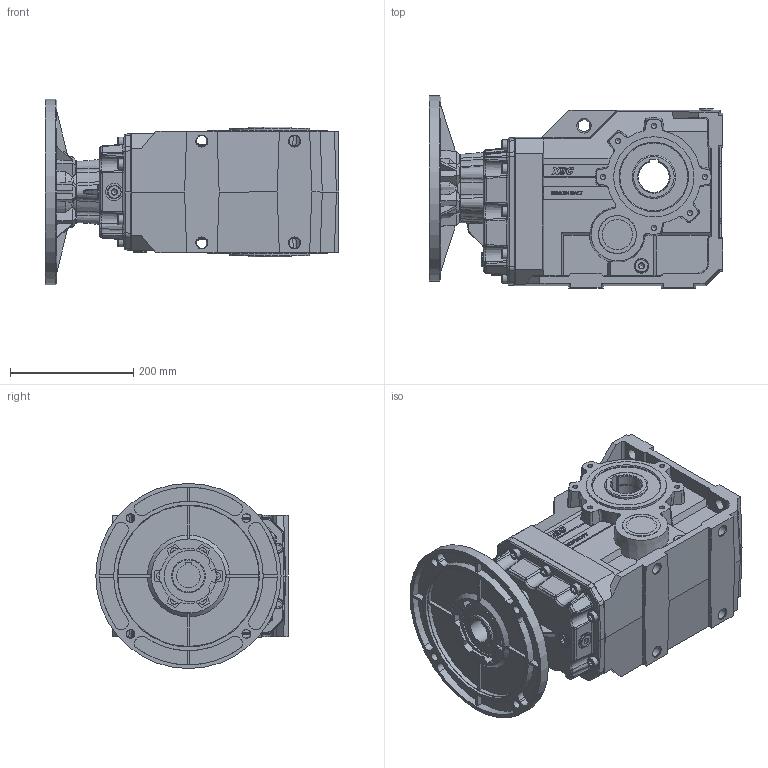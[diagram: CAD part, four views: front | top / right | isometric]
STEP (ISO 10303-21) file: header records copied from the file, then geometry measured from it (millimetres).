
FILE_DESCRIPTION( ( 'Unknown' ), '1' );
FILE_NAME( 'E:/services/configuratordownloads/customers/HYDROMEC/X/download/7D359888F9DA7147EA748F81DC616E39/STEP/7D359888F9DA7147EA748F81DC616E39.3d.stp', 'Unknown', ( 'Unknown' ), ( 'Unknown' ), 'PSStep 10.1', 'Unknown', ' ' );
FILE_SCHEMA( ( 'AUTOMOTIVE_DESIGN { 1 0 10303 214 1 1 1 1 }' ) );
Length unit declared in the file: millimetre
Products named in the file (1): X9C8800
Bounding box: 476 x 311.5 x 300 mm (x, y, z)
Volume: 17242273.8 mm3; surface area: 988259.7 mm2
Topology: 1 solids, 39 shells, 1972 faces, 4938 edges, 3156 vertices
Faces by surface type: plane 1099, cylinder 378, bspline 217, cone 215, torus 63
Full cylindrical faces by diameter (mm): 4.917 x8, 5.6 x8, 6 x8, 7 x8, 8.376 x22, 8.5 x7, 10 x10, 11 x10, 12 x8, 13 x6, 14 x4, 14.3 x7, 14.95 x11, 16 x10, 17 x7, 17.5 x8, 22 x14, 24 x5, 28 x2, 49 x1, 55 x1, 58.8 x1, 59 x1, 61 x1, 61.246 x1, 61.7 x1, 62 x2, 63 x1, 65 x1, 68 x1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
Entity records: 92625 total; most frequent: CARTESIAN_POINT 33095, ORIENTED_EDGE 8736, DIRECTION 8723, EDGE_CURVE 4368, AXIS2_PLACEMENT_3D 3151, VERTEX_POINT 2994, EDGE_LOOP 2541, LINE 2421
